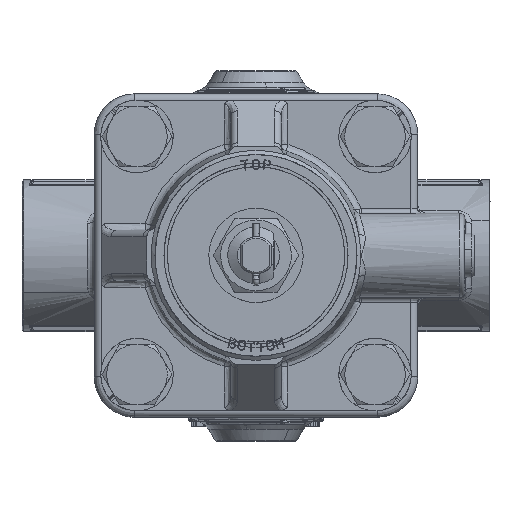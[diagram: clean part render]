
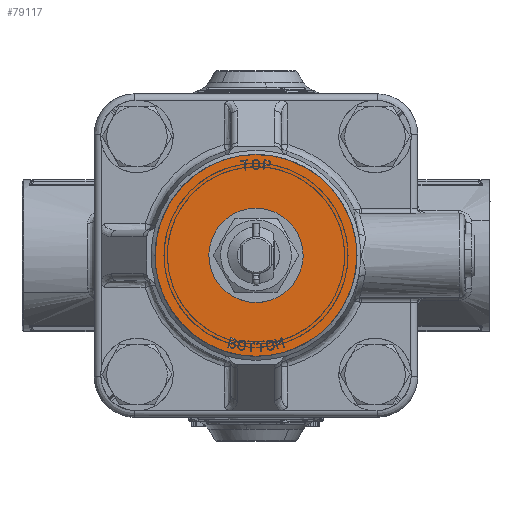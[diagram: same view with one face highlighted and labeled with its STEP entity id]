
A CAD part, top view. The second image highlights one B-rep face of the part: STEP entity #79117.
In plain terms, the highlighted free-form (B-spline) face has degree [1, 1] with [2, 2] control points.
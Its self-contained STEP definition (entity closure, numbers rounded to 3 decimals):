
#78795=CARTESIAN_POINT('',(-20.268,22.118,28.2));
#78796=VERTEX_POINT('',#78795);
#78802=CARTESIAN_POINT('',(0.,30.,28.2));
#78803=VERTEX_POINT('',#78802);
#78804=CARTESIAN_POINT('',(0.,30.,28.2));
#78805=CARTESIAN_POINT('',(-1.97,30.,28.2));
#78806=CARTESIAN_POINT('',(-4.926,29.708,28.2));
#78807=CARTESIAN_POINT('',(-9.033,28.675,28.2));
#78808=CARTESIAN_POINT('',(-12.241,27.47,28.2));
#78809=CARTESIAN_POINT('',(-16.203,25.403,28.2));
#78810=CARTESIAN_POINT('',(-18.773,23.489,28.2));
#78811=CARTESIAN_POINT('',(-20.268,22.118,28.2));
#78812=B_SPLINE_CURVE_WITH_KNOTS('',3,(#78804,#78805,#78806,#78807,#78808,#78809,#78810,#78811),.UNSPECIFIED.,.F.,.U.,(4,1,1,1,1,4),(0.,5.911,8.866,12.691,16.168,22.253),.UNSPECIFIED.);
#78813=EDGE_CURVE('',#78803,#78796,#78812,.T.);
#78815=CARTESIAN_POINT('',(30.,0.,28.2));
#78816=VERTEX_POINT('',#78815);
#78817=CARTESIAN_POINT('',(30.,0.,28.2));
#78818=CARTESIAN_POINT('',(30.,2.209,28.2));
#78819=CARTESIAN_POINT('',(29.585,5.952,28.2));
#78820=CARTESIAN_POINT('',(27.925,11.365,28.2));
#78821=CARTESIAN_POINT('',(25.555,16.037,28.2));
#78822=CARTESIAN_POINT('',(22.558,19.95,28.2));
#78823=CARTESIAN_POINT('',(19.283,23.107,28.2));
#78824=CARTESIAN_POINT('',(15.451,25.895,28.2));
#78825=CARTESIAN_POINT('',(11.185,27.977,28.2));
#78826=CARTESIAN_POINT('',(5.89,29.583,28.2));
#78827=CARTESIAN_POINT('',(2.332,30.001,28.2));
#78828=CARTESIAN_POINT('',(0.,30.,28.2));
#78829=B_SPLINE_CURVE_WITH_KNOTS('',3,(#78817,#78818,#78819,#78820,#78821,#78822,#78823,#78824,#78825,#78826,#78827,#78828),.UNSPECIFIED.,.F.,.U.,(4,1,1,1,1,1,1,1,1,4),(0.,6.627,11.229,16.935,22.273,25.955,30.557,36.447,40.129,47.124),.UNSPECIFIED.);
#78830=EDGE_CURVE('',#78816,#78803,#78829,.T.);
#78832=CARTESIAN_POINT('',(20.268,-22.118,28.2));
#78833=VERTEX_POINT('',#78832);
#78834=CARTESIAN_POINT('',(20.268,-22.118,28.2));
#78835=CARTESIAN_POINT('',(24.919,-17.856,28.2));
#78836=CARTESIAN_POINT('',(27.459,-12.082,28.2));
#78837=CARTESIAN_POINT('',(30.,-6.308,28.2));
#78838=CARTESIAN_POINT('',(30.,0.,28.2));
#78846=(BOUNDED_CURVE()B_SPLINE_CURVE(2,(#78834,#78835,#78836,#78837,#78838),.UNSPECIFIED.,.F.,.U.)B_SPLINE_CURVE_WITH_KNOTS((3,2,3),(0.,0.5,1.),.UNSPECIFIED.)CURVE()GEOMETRIC_REPRESENTATION_ITEM()RATIONAL_B_SPLINE_CURVE((1.,0.979,1.,0.979,1.))REPRESENTATION_ITEM(''));
#78847=EDGE_CURVE('',#78833,#78816,#78846,.T.);
#78950=CARTESIAN_POINT('',(0.,-30.,28.2));
#78951=VERTEX_POINT('',#78950);
#78952=CARTESIAN_POINT('',(0.,-30.,28.2));
#78953=CARTESIAN_POINT('',(2.028,-30.,28.2));
#78954=CARTESIAN_POINT('',(6.085,-29.587,28.2));
#78955=CARTESIAN_POINT('',(11.531,-27.877,28.2));
#78956=CARTESIAN_POINT('',(16.31,-25.348,28.2));
#78957=CARTESIAN_POINT('',(18.986,-23.293,28.2));
#78958=CARTESIAN_POINT('',(20.268,-22.118,28.2));
#78959=B_SPLINE_CURVE_WITH_KNOTS('',3,(#78952,#78953,#78954,#78955,#78956,#78957,#78958),.UNSPECIFIED.,.F.,.U.,(4,1,1,1,4),(0.,6.085,12.17,17.037,22.253),.UNSPECIFIED.);
#78960=EDGE_CURVE('',#78951,#78833,#78959,.T.);
#78962=CARTESIAN_POINT('',(-30.,0.,28.2));
#78963=VERTEX_POINT('',#78962);
#78964=CARTESIAN_POINT('',(-30.,0.,28.2));
#78965=CARTESIAN_POINT('',(-30.,-12.426,28.2));
#78966=CARTESIAN_POINT('',(-21.213,-21.213,28.2));
#78967=CARTESIAN_POINT('',(-12.426,-30.,28.2));
#78968=CARTESIAN_POINT('',(0.,-30.,28.2));
#78976=(BOUNDED_CURVE()B_SPLINE_CURVE(2,(#78964,#78965,#78966,#78967,#78968),.UNSPECIFIED.,.F.,.U.)B_SPLINE_CURVE_WITH_KNOTS((3,2,3),(0.,0.5,1.),.UNSPECIFIED.)CURVE()GEOMETRIC_REPRESENTATION_ITEM()RATIONAL_B_SPLINE_CURVE((1.,0.924,1.,0.924,1.))REPRESENTATION_ITEM(''));
#78977=EDGE_CURVE('',#78963,#78951,#78976,.T.);
#78979=CARTESIAN_POINT('',(-20.268,22.118,28.2));
#78980=CARTESIAN_POINT('',(-21.223,21.243,28.2));
#78981=CARTESIAN_POINT('',(-23.199,19.182,28.2));
#78982=CARTESIAN_POINT('',(-25.545,15.908,28.2));
#78983=CARTESIAN_POINT('',(-27.484,12.236,28.2));
#78984=CARTESIAN_POINT('',(-28.684,9.01,28.2));
#78985=CARTESIAN_POINT('',(-29.713,4.858,28.2));
#78986=CARTESIAN_POINT('',(-30.,2.008,28.2));
#78987=CARTESIAN_POINT('',(-30.,0.,28.2));
#78988=B_SPLINE_CURVE_WITH_KNOTS('',3,(#78979,#78980,#78981,#78982,#78983,#78984,#78985,#78986,#78987),.UNSPECIFIED.,.F.,.U.,(4,1,1,1,1,1,4),(0.,3.886,8.549,12.047,16.322,18.848,24.871),.UNSPECIFIED.);
#78989=EDGE_CURVE('',#78796,#78963,#78988,.T.);
#79056=CARTESIAN_POINT('',(32.997,-32.997,28.2));
#79057=CARTESIAN_POINT('',(-32.997,-32.997,28.2));
#79058=CARTESIAN_POINT('',(32.997,32.997,28.2));
#79059=CARTESIAN_POINT('',(-32.997,32.997,28.2));
#79060=B_SPLINE_SURFACE_WITH_KNOTS('',1,1,((#79056,#79058),(#79057,#79059)),.UNSPECIFIED.,.F.,.F.,.U.,(2,2),(2,2),(0.,65.994),(0.,65.994),.UNSPECIFIED.);
#79061=ORIENTED_EDGE('',*,*,#78977,.T.);
#79062=ORIENTED_EDGE('',*,*,#78960,.T.);
#79063=ORIENTED_EDGE('',*,*,#78847,.T.);
#79064=ORIENTED_EDGE('',*,*,#78830,.T.);
#79065=ORIENTED_EDGE('',*,*,#78813,.T.);
#79066=ORIENTED_EDGE('',*,*,#78989,.T.);
#79067=EDGE_LOOP('',(#79061,#79062,#79063,#79064,#79065,#79066));
#79068=FACE_OUTER_BOUND('',#79067,.T.);
#79069=CARTESIAN_POINT('',(-4.989,-5.6,28.2));
#79070=VERTEX_POINT('',#79069);
#79071=CARTESIAN_POINT('',(4.989,-5.6,28.2));
#79072=VERTEX_POINT('',#79071);
#79073=CARTESIAN_POINT('',(-4.989,-5.6,28.2));
#79074=CARTESIAN_POINT('',(4.989,-5.6,28.2));
#79075=QUASI_UNIFORM_CURVE('',1,(#79073,#79074),.UNSPECIFIED.,.F.,.U.);
#79076=EDGE_CURVE('',#79070,#79072,#79075,.T.);
#79077=ORIENTED_EDGE('',*,*,#79076,.F.);
#79078=CARTESIAN_POINT('',(0.,7.5,28.2));
#79079=VERTEX_POINT('',#79078);
#79080=CARTESIAN_POINT('',(0.,7.5,28.2));
#79081=CARTESIAN_POINT('',(-0.66,7.5,28.2));
#79082=CARTESIAN_POINT('',(-1.697,7.362,28.2));
#79083=CARTESIAN_POINT('',(-3.258,6.811,28.2));
#79084=CARTESIAN_POINT('',(-4.441,6.106,28.2));
#79085=CARTESIAN_POINT('',(-5.598,5.059,28.2));
#79086=CARTESIAN_POINT('',(-6.398,3.999,28.2));
#79087=CARTESIAN_POINT('',(-7.067,2.642,28.2));
#79088=CARTESIAN_POINT('',(-7.497,1.087,28.2));
#79089=CARTESIAN_POINT('',(-7.537,-0.529,28.2));
#79090=CARTESIAN_POINT('',(-7.278,-1.924,28.2));
#79091=CARTESIAN_POINT('',(-6.814,-3.264,28.2));
#79092=CARTESIAN_POINT('',(-6.054,-4.528,28.2));
#79093=CARTESIAN_POINT('',(-5.306,-5.318,28.2));
#79094=CARTESIAN_POINT('',(-4.989,-5.6,28.2));
#79095=B_SPLINE_CURVE_WITH_KNOTS('',3,(#79080,#79081,#79082,#79083,#79084,#79085,#79086,#79087,#79088,#79089,#79090,#79091,#79092,#79093,#79094),.UNSPECIFIED.,.F.,.U.,(4,1,1,1,1,1,1,1,1,1,1,1,4),(0.,1.98,3.112,4.95,6.082,7.779,8.911,10.608,12.588,13.719,14.851,16.831,18.104),.UNSPECIFIED.);
#79096=EDGE_CURVE('',#79079,#79070,#79095,.T.);
#79097=ORIENTED_EDGE('',*,*,#79096,.F.);
#79098=CARTESIAN_POINT('',(4.989,-5.6,28.2));
#79099=CARTESIAN_POINT('',(5.623,-5.036,28.2));
#79100=CARTESIAN_POINT('',(6.517,-3.914,28.2));
#79101=CARTESIAN_POINT('',(7.293,-2.027,28.2));
#79102=CARTESIAN_POINT('',(7.535,-0.478,28.2));
#79103=CARTESIAN_POINT('',(7.467,1.081,28.2));
#79104=CARTESIAN_POINT('',(7.097,2.651,28.2));
#79105=CARTESIAN_POINT('',(6.354,4.087,28.2));
#79106=CARTESIAN_POINT('',(5.457,5.186,28.2));
#79107=CARTESIAN_POINT('',(4.546,6.011,28.2));
#79108=CARTESIAN_POINT('',(3.267,6.823,28.2));
#79109=CARTESIAN_POINT('',(1.697,7.377,28.2));
#79110=CARTESIAN_POINT('',(0.519,7.5,28.2));
#79111=CARTESIAN_POINT('',(0.,7.5,28.2));
#79112=B_SPLINE_CURVE_WITH_KNOTS('',3,(#79098,#79099,#79100,#79101,#79102,#79103,#79104,#79105,#79106,#79107,#79108,#79109,#79110,#79111),.UNSPECIFIED.,.F.,.U.,(4,1,1,1,1,1,1,1,1,1,1,4),(0.,2.546,4.243,6.082,7.213,8.911,10.891,12.022,13.154,14.568,16.548,18.104),.UNSPECIFIED.);
#79113=EDGE_CURVE('',#79072,#79079,#79112,.T.);
#79114=ORIENTED_EDGE('',*,*,#79113,.F.);
#79115=EDGE_LOOP('',(#79077,#79097,#79114));
#79116=FACE_BOUND('',#79115,.T.);
#79117=ADVANCED_FACE('',(#79068,#79116),#79060,.F.);
